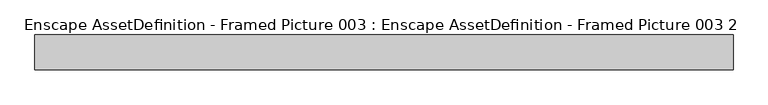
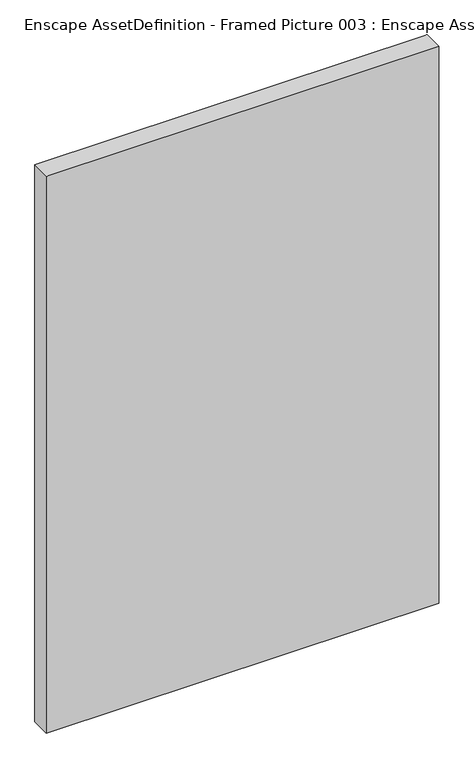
"""IFC4 building model written with IfcOpenShell, lengths in millimetres: geographic element geometry, Enscape AssetDefinition - Framed Picture 003 : Enscape AssetDefinition - Framed Picture 003 2."""

from ifc_helpers import new_model, si_unit, origin, place, context, project, spatial, triangles, source, transform, mapped, element, save


def enscape_assetdefinition_framed_picture_003_enscape_f1a1e88f(model_context):
    return source(origin(), model_context, "Body", "Tessellation", [
        triangles([(666.6667202, 0.0001185, 0.0), (-666.6667202, 0.0001185, 0.0), (-666.6667202, -66.6666384, 0.0), (666.6667202, -66.6669563, 2000.0000153), (-666.6667202, -66.66697, 2000.0000153), (-666.6667202, -0.0002073, 2000.0000153), (666.6667202, -0.0002073, 2000.0000153), (666.6667202, -66.6666384, 0.0)], [[6, 2, 3], [7, 6, 5], [1, 7, 4], [2, 1, 8], [3, 8, 4], [2, 6, 7], [6, 3, 5], [7, 5, 4], [1, 4, 8], [2, 8, 3], [3, 4, 5], [2, 7, 1]]),
    ])


if __name__ == "__main__":
    model = new_model("IFC4")
    model_context = context("Model", 3, world=origin())
    ifc_project = project(units=[si_unit("LENGTHUNIT", "METRE", prefix="MILLI")], contexts=[model_context])
    site = spatial("IfcSite", under=ifc_project)
    building = spatial("IfcBuilding", under=site)
    placement = place(None, origin())
    enscape_assetdefinition_framed_picture_003_enscape_shape = enscape_assetdefinition_framed_picture_003_enscape_f1a1e88f(model_context)
    element("IfcGeographicElement", 1, ObjectType="Enscape AssetDefinition - Framed Picture 003 : Enscape AssetDefinition - Framed Picture 003 2", at=placement, inside=building, context=model_context, shape_type="MappedRepresentation", body=[
        mapped(enscape_assetdefinition_framed_picture_003_enscape_shape, transform((0.0, 0.0, 0.0), x_axis=(1.0, 0.0, 0.0), y_axis=(0.0, 1.0, 0.0), z_axis=(0.0, 0.0, 1.0))),
    ])
    save(model, "model.ifc")
